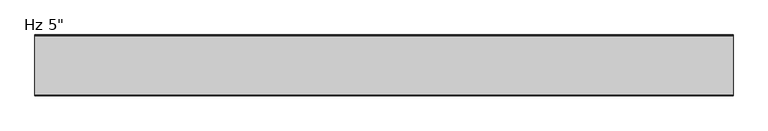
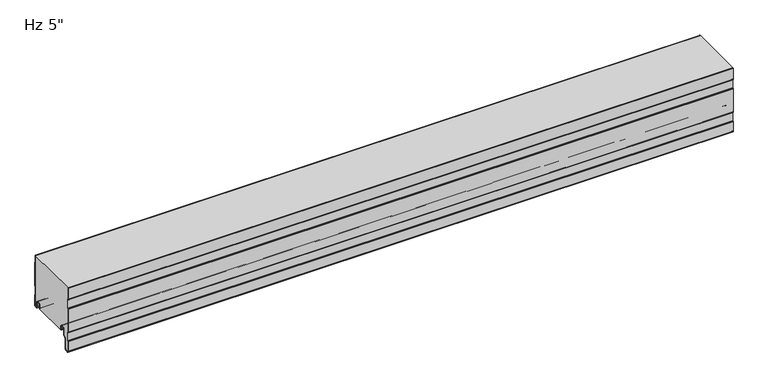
"""IFC4 building model written with IfcOpenShell, lengths in millimetres: plate geometry."""

import ifcopenshell
import ifcopenshell.guid

model = None  # the IFC model being written
_history = None  # IfcOwnerHistory: only IFC2X3 demands one
_inside = {}  # id of a spatial element -> (the spatial element, [elements in it])
_under = {}  # id of a project, library or spatial element -> (it, [spatial elements below it])
_declared = {}  # id of a project -> (the project, [libraries it declares])
_typed = {}  # id of a type object -> (the type object, [elements of that type])
_made_of = {}  # id of a material, layer set ... -> (it, [elements and type objects made of it])


def new_model(schema):
    """Start an empty IFC model of exactly this schema.

    Asked for "IFC4X3", IfcOpenShell would pick the latest addendum, in which some entities
    have other attributes; the version numbers below select the first issue.
    IFC2X3 requires an IfcOwnerHistory on every rooted entity: one is made here for all.
    """
    global model, _history
    if schema == "IFC4X3":
        model = ifcopenshell.file(schema_version=(4, 3, 0, 0))
    else:
        model = ifcopenshell.file(schema=schema)
    _inside.clear()
    _under.clear()
    _declared.clear()
    _typed.clear()
    _made_of.clear()
    _history = None
    if model.schema == "IFC2X3":
        org = make("IfcOrganization", Name="unknown")
        user = make(
            "IfcPersonAndOrganization",
            ThePerson=make("IfcPerson", FamilyName="unknown"),
            TheOrganization=org,
        )
        app = make(
            "IfcApplication",
            ApplicationDeveloper=org,
            Version="unknown",
            ApplicationFullName="unknown",
            ApplicationIdentifier="unknown",
        )
        _history = make(
            "IfcOwnerHistory",
            OwningUser=user,
            OwningApplication=app,
            ChangeAction="ADDED",
            CreationDate=0,
        )
    return model


def make(cls, **values):
    """One entity of the class cls with the attributes given. An attribute that is None is left unset."""
    return model.create_entity(
        cls, **{name: value for name, value in values.items() if value is not None}
    )


def rooted(cls, **values):
    """An entity with a GlobalId (a new one), such as an element, a storey or a relation."""
    return make(cls, GlobalId=ifcopenshell.guid.new(), OwnerHistory=_history, **values)


def si_unit(unit_type, name, prefix=None):
    """IfcSIUnit, for example si_unit("LENGTHUNIT", "METRE", prefix="MILLI")."""
    return make("IfcSIUnit", UnitType=unit_type, Prefix=prefix, Name=name)


def assignment(units):
    """IfcUnitAssignment: the units of a project."""
    return None if units is None else make("IfcUnitAssignment", Units=units)


def point(xyz):
    """IfcCartesianPoint."""
    return None if xyz is None else make("IfcCartesianPoint", Coordinates=xyz)


def direction(xyz):
    """IfcDirection."""
    return None if xyz is None else make("IfcDirection", DirectionRatios=xyz)


def frame(location, z_axis=None, x_axis=None):
    """IfcAxis2Placement3D, a coordinate frame: its origin and axes. An axis left out is left unset."""
    return make(
        "IfcAxis2Placement3D",
        Location=point(location),
        Axis=direction(z_axis),
        RefDirection=direction(x_axis),
    )


def frame_2d(location, x_axis=None):
    """IfcAxis2Placement2D, a coordinate frame in the plane: its origin and x axis."""
    return make(
        "IfcAxis2Placement2D", Location=point(location), RefDirection=direction(x_axis)
    )


def origin():
    """The frame at (0, 0, 0) with its axes left unset."""
    return frame((0.0, 0.0, 0.0))


def place(relative_to, where):
    """IfcLocalPlacement: puts the frame where relative to a parent placement (None: the world)."""
    return make(
        "IfcLocalPlacement", PlacementRelTo=relative_to, RelativePlacement=where
    )


def context(
    kind, dimensions, precision=None, world=None, true_north=None, identifier=None
):
    """IfcGeometricRepresentationContext, for example the 3D "Model" context."""
    return make(
        "IfcGeometricRepresentationContext",
        ContextIdentifier=identifier,
        ContextType=kind,
        CoordinateSpaceDimension=dimensions,
        Precision=precision,
        WorldCoordinateSystem=world,
        TrueNorth=true_north,
    )


def project(units=None, contexts=None):
    """IfcProject with its units and contexts."""
    return rooted(
        "IfcProject",
        Name="project",
        RepresentationContexts=contexts,
        UnitsInContext=assignment(units),
    )


def spatial(cls, under=None, at=None, **own):
    """A site, building, storey or space (cls), placed at a placement, below another one or the project."""
    s = rooted(cls, ObjectPlacement=at, **own)
    if under is not None:
        _under.setdefault(under.id(), (under, []))[1].append(s)
    return s


def polyline(points):
    """IfcPolyline through the points."""
    return make("IfcPolyline", Points=[point(p) for p in points])


def circle_curve(where, radius):
    """IfcCircle in the frame where."""
    return make("IfcCircle", Position=where, Radius=radius)


def trimmed(basis, trim1, trim2, sense, master):
    """IfcTrimmedCurve: the piece of a basis curve between two trims."""
    return make(
        "IfcTrimmedCurve",
        BasisCurve=basis,
        Trim1=trim1,
        Trim2=trim2,
        SenseAgreement=sense,
        MasterRepresentation=master,
    )


def segment(curve, same_sense, transition):
    """IfcCompositeCurveSegment."""
    return make(
        "IfcCompositeCurveSegment",
        Transition=transition,
        SameSense=same_sense,
        ParentCurve=curve,
    )


def composite_curve(segments, self_intersect=None):
    """IfcCompositeCurve: segments joined end to end."""
    return make("IfcCompositeCurve", Segments=segments, SelfIntersect=self_intersect)


def outline(outer, holes=None, kind="AREA"):
    """IfcArbitraryClosedProfileDef: a profile drawn as a closed curve; with holes, ...WithVoids."""
    if holes is None:
        return make("IfcArbitraryClosedProfileDef", ProfileType=kind, OuterCurve=outer)
    return make(
        "IfcArbitraryProfileDefWithVoids",
        ProfileType=kind,
        OuterCurve=outer,
        InnerCurves=holes,
    )


def extrude(swept, where, along, depth):
    """IfcExtrudedAreaSolid: the profile swept, set in the frame where, extruded along a direction by depth."""
    return make(
        "IfcExtrudedAreaSolid",
        SweptArea=swept,
        Position=where,
        ExtrudedDirection=direction(along),
        Depth=depth,
    )


def shape(context_of_items, identifier, shape_type, items):
    """IfcShapeRepresentation: the items that make up one representation, for example the "Body"."""
    return make(
        "IfcShapeRepresentation",
        ContextOfItems=context_of_items,
        RepresentationIdentifier=identifier,
        RepresentationType=shape_type,
        Items=items,
    )


def source(mapping_origin, context_of_items, identifier, shape_type, items):
    """IfcRepresentationMap: a shape defined once, which mapped items show again and again."""
    return make(
        "IfcRepresentationMap",
        MappingOrigin=mapping_origin,
        MappedRepresentation=shape(context_of_items, identifier, shape_type, items),
    )


def transform(
    local_origin,
    x_axis=None,
    y_axis=None,
    z_axis=None,
    scale=None,
    scale2=None,
    scale3=None,
    uniform=True,
):
    """IfcCartesianTransformationOperator3D, or its non-uniform kind. x_axis, y_axis, z_axis: its Axis1, 2, 3."""
    if uniform:
        return make(
            "IfcCartesianTransformationOperator3D",
            Axis1=direction(x_axis),
            Axis2=direction(y_axis),
            LocalOrigin=point(local_origin),
            Scale=scale,
            Axis3=direction(z_axis),
        )
    return make(
        "IfcCartesianTransformationOperator3DnonUniform",
        Axis1=direction(x_axis),
        Axis2=direction(y_axis),
        LocalOrigin=point(local_origin),
        Scale=scale,
        Axis3=direction(z_axis),
        Scale2=scale2,
        Scale3=scale3,
    )


def mapped(mapping_source, mapping_target):
    """IfcMappedItem: shows the shape of a source again, moved by a transform."""
    return make(
        "IfcMappedItem", MappingSource=mapping_source, MappingTarget=mapping_target
    )


def made_of(thing, what):
    """Note that an element or type object is made of a material, layer set ...; save() writes the relation."""
    if what is not None:
        _made_of.setdefault(what.id(), (what, []))[1].append(thing)
    return thing


def element(
    cls,
    number,
    at=None,
    inside=None,
    cuts=None,
    type_object=None,
    material=None,
    context=None,
    identifier="Body",
    shape_type=None,
    held_by="IfcProductDefinitionShape",
    body=None,
    shapes=None,
    **own,
):
    """One element of the class cls, such as IfcWall. Its Tag is "e" and its number.

    at: its placement. inside: the storey or other place that contains it. cuts: it is an
    opening in that element (IfcRelVoidsElement). A single representation is given by context,
    identifier, shape_type and body (its items); several are given by shapes. held_by: the class
    of the entity that holds the representations. save() writes the other relations.
    """
    e = rooted(cls, Tag="e%d" % number, ObjectPlacement=at, **own)
    if body is not None:
        shapes = [shape(context, identifier, shape_type, body)]
    if shapes is not None:
        e.Representation = make(held_by, Representations=shapes)
    if inside is not None:
        _inside.setdefault(inside.id(), (inside, []))[1].append(e)
    if cuts is not None:
        rooted(
            "IfcRelVoidsElement", RelatingBuildingElement=cuts, RelatedOpeningElement=e
        )
    if type_object is not None:
        _typed.setdefault(type_object.id(), (type_object, []))[1].append(e)
    return made_of(e, material)


def aggregate(whole, parts):
    """IfcRelAggregates: a whole, such as a stair, and the parts it consists of."""
    return rooted("IfcRelAggregates", RelatingObject=whole, RelatedObjects=parts)


def save(model, path):
    """Write the relations noted so far, then the file.

    IfcRelAggregates (storeys below a building ...), IfcRelContainedInSpatialStructure (elements
    in a storey), IfcRelDefinesByType, IfcRelAssociatesMaterial and IfcRelDeclares: one each for
    every whole, place, type object, material and project.
    """
    for whole, parts in _under.values():
        aggregate(whole, parts)
    for where, things in _inside.values():
        rooted(
            "IfcRelContainedInSpatialStructure",
            RelatedElements=things,
            RelatingStructure=where,
        )
    for kind, things in _typed.values():
        rooted("IfcRelDefinesByType", RelatedObjects=things, RelatingType=kind)
    for what, things in _made_of.values():
        rooted("IfcRelAssociatesMaterial", RelatedObjects=things, RelatingMaterial=what)
    for by, libraries in _declared.values():
        rooted("IfcRelDeclares", RelatingContext=by, RelatedDefinitions=libraries)
    model.write(path)


def plane_surface(at):
    """IfcPlane: the flat surface through the origin of the frame at, square to its z axis."""
    return make("IfcPlane", Position=at)


def cylinder_surface(at, radius):
    """IfcCylindricalSurface: all points at the distance radius from the z axis of the frame at."""
    return make("IfcCylindricalSurface", Position=at, Radius=radius)


def revolved_surface(curve, axis_point, axis_direction):
    """IfcSurfaceOfRevolution: the curve turned about the line through axis_point along axis_direction."""
    return make(
        "IfcSurfaceOfRevolution",
        SweptCurve=make("IfcArbitraryOpenProfileDef", ProfileType="CURVE", Curve=curve),
        AxisPosition=make("IfcAxis1Placement", Location=point(axis_point), Axis=direction(axis_direction)),
    )


def advanced_brep(points, edges, surfaces, faces):
    """IfcAdvancedBrep: a solid bounded by faces that lie on surfaces and meet in shared edges.

    An edge is (start, end): straight between two places in points (the first is 0);
    or (start, end, curve); or (start, end, curve, False) where it runs against its curve.
    A face is (place in surfaces, loops), or (place, loops, False) where it looks against
    its surface's normal. A loop lists edges by number (the first is 1), with a minus sign
    where the edge is run from its end to its start. The first loop is the outer one.
    """
    corners = [point(p) for p in points]
    vertices = [make("IfcVertexPoint", VertexGeometry=c) for c in corners]
    made = []
    for start, end, *more in edges:
        made.append(
            make(
                "IfcEdgeCurve",
                EdgeStart=vertices[start],
                EdgeEnd=vertices[end],
                EdgeGeometry=more[0] if more else make("IfcPolyline", Points=[corners[start], corners[end]]),
                SameSense=more[1] if len(more) > 1 else True,
            )
        )
    hull = []
    for where, loops, *sense in faces:
        bounds = []
        for j, loop in enumerate(loops):
            ring = [make("IfcOrientedEdge", EdgeElement=made[abs(k) - 1], Orientation=k > 0) for k in loop]
            bounds.append(
                make(
                    "IfcFaceOuterBound" if j == 0 else "IfcFaceBound",
                    Bound=make("IfcEdgeLoop", EdgeList=ring),
                    Orientation=True,
                )
            )
        hull.append(make("IfcAdvancedFace", Bounds=bounds, FaceSurface=surfaces[where], SameSense=sense[0] if sense else True))
    return make("IfcAdvancedBrep", Outer=make("IfcClosedShell", CfsFaces=hull))


def plate_73ffa5bb(model_context):
    return source(origin(), model_context, "Body", "SolidModel", [
        advanced_brep(
        [(-730.0, -17.0015159, 2.0313088), (-730.0, -18.0015191, 1.0313116), (-730.0, -19.0015105, 2.0313088), (-730.0, -19.0015105, 6.0315125), (-730.0, -18.0015159, 6.0315125), (-730.0, -18.0015159, 8.7237223), (-730.0, -14.7015202, 12.023718), (-730.0, -10.301529, 12.023718), (-730.0, -7.0015335, 8.7237225), (-730.0, -7.0015335, -1.6962564), (-730.0, -5.2315393, -3.4662506), (-730.0, -0.9999916, -3.4662506), (-730.0, -0.9999916, 21.034026), (-730.0, -2.2002307, 22.4196686), (-730.0, -2.2002307, 41.7948349), (-730.0, -1.0, 43.1804679), (-730.0, -1.0, 97.2338833), (-730.0, -2.2002307, 98.6195162), (-730.0, -2.2002307, 114.0), (-730.0, -1.2002307, 114.0), (-730.0, -1.2002307, 98.9923967), (-730.0, -0.3417885, 98.001349), (-730.0, 0.0, 97.0847321), (-730.0, 0.0, 43.329619), (-730.0, -0.3417885, 42.4130021), (-730.0, -1.2002307, 41.4219545), (-730.0, -1.2002307, 22.7925491), (-730.0, -0.3417885, 21.8015014), (-730.0, 0.0, 20.8847931), (-730.0, 8.4e-06, -3.0662545), (-730.0, -1.3999878, -4.4662506), (-730.0, -5.2315393, -4.4662506), (-730.0, -8.0015335, -1.6962564), (-730.0, -8.0015335, 8.7237225), (-730.0, -10.301529, 11.023718), (-730.0, -14.7015202, 11.023718), (-730.0, -17.0015159, 8.7237223), (730.0, -17.0015159, 2.0313088), (730.0, -17.0015159, 8.7237223), (730.0, -14.7015202, 11.023718), (730.0, -10.301529, 11.023718), (730.0, -8.0015335, 8.7237225), (730.0, -8.0015335, -1.6962564), (730.0, -5.2315393, -4.4662506), (730.0, -1.3999878, -4.4662506), (730.0, 8.4e-06, -3.0662545), (730.0, 8.4e-06, 20.8848845), (730.0, -0.3417885, 21.8015014), (730.0, -1.2002307, 22.7925491), (730.0, -1.2002307, 41.4219545), (730.0, -0.3417885, 42.4130021), (730.0, 0.0, 43.329619), (730.0, 0.0, 97.0847321), (730.0, -0.3417885, 98.001349), (730.0, -1.2002307, 98.9923967), (730.0, -1.2002307, 114.0), (730.0, -2.2002307, 114.0), (730.0, -2.2002307, 98.6195162), (730.0, -1.0, 97.2338833), (730.0, -1.0, 43.1804679), (730.0, -2.2002307, 41.7948349), (730.0, -2.2002307, 22.4196686), (730.0, -0.9999916, 21.034026), (730.0, -0.9999916, -3.4662506), (730.0, -5.2315393, -3.4662506), (730.0, -7.0015335, -1.6962564), (730.0, -7.0015335, 8.7237225), (730.0, -10.301529, 12.023718), (730.0, -14.7015202, 12.023718), (730.0, -18.0015159, 8.7237223), (730.0, -18.0015159, 6.0315125), (730.0, -19.0015105, 6.0315125), (730.0, -19.0015105, 2.0313088), (730.0, -18.0015192, 1.0313116)],
        [
            (0, 1, circle_curve(frame((-730.0, -18.0015132, 2.0313088), z_axis=(-1.0, 0.0, 0.0), x_axis=(0.0, 0.0, 1.0)), 0.9999973)),
            (1, 2, circle_curve(frame((-730.0, -18.0015133, 2.0313088), z_axis=(-1.0, 0.0, 0.0), x_axis=(0.0, 0.0, 1.0)), 0.9999972)),
            (2, 3),
            (3, 4),
            (4, 5),
            (5, 6, circle_curve(frame((-730.0, -14.7015202, 8.7237223), z_axis=(-1.0, 0.0, 0.0), x_axis=(0.0, 0.0, 1.0)), 3.2999957)),
            (6, 7),
            (7, 8, circle_curve(frame((-730.0, -10.301529, 8.7237225), z_axis=(-1.0, 0.0, 0.0), x_axis=(0.0, 0.0, 1.0)), 3.2999955)),
            (8, 9),
            (9, 10, circle_curve(frame((-730.0, -5.2315393, -1.6962564), z_axis=(1.0, 0.0, 0.0), x_axis=(0.0, 0.0, 1.0)), 1.7699942)),
            (10, 11),
            (11, 12),
            (12, 13),
            (13, 14),
            (14, 15),
            (15, 16),
            (16, 17),
            (17, 18),
            (18, 19),
            (19, 20),
            (20, 21),
            (21, 22, circle_curve(frame((-730.0, -1.3999972, 97.0847321), z_axis=(-1.0, 0.0, 0.0), x_axis=(0.0, 0.0, 1.0)), 1.3999972)),
            (22, 23),
            (23, 24, circle_curve(frame((-730.0, -1.3999972, 43.329619), z_axis=(-1.0, 0.0, 0.0), x_axis=(0.0, 0.0, 1.0)), 1.3999972)),
            (24, 25),
            (25, 26),
            (26, 27),
            (27, 28, circle_curve(frame((-730.0, -1.3999972, 20.8848845), z_axis=(-1.0, 0.0, 0.0), x_axis=(0.0, 0.0, 1.0)), 1.3999972)),
            (28, 29),
            (29, 30, circle_curve(frame((-730.0, -1.3999878, -3.0662545), z_axis=(-1.0, 0.0, 0.0), x_axis=(0.0, 0.0, 1.0)), 1.3999962)),
            (30, 31),
            (31, 32, circle_curve(frame((-730.0, -5.2315393, -1.6962564), z_axis=(-1.0, 0.0, 0.0), x_axis=(0.0, 0.0, 1.0)), 2.7699942)),
            (32, 33),
            (33, 34, circle_curve(frame((-730.0, -10.301529, 8.7237225), z_axis=(1.0, 0.0, 0.0), x_axis=(0.0, 0.0, 1.0)), 2.2999955)),
            (34, 35),
            (35, 36, circle_curve(frame((-730.0, -14.7015202, 8.7237223), z_axis=(1.0, 0.0, 0.0), x_axis=(0.0, 0.0, 1.0)), 2.2999957)),
            (36, 0),
            (37, 38),
            (38, 39, circle_curve(frame((730.0, -14.7015202, 8.7237223), z_axis=(-1.0, 0.0, 0.0), x_axis=(0.0, 0.0, 1.0)), 2.2999957)),
            (39, 40),
            (40, 41, circle_curve(frame((730.0, -10.301529, 8.7237225), z_axis=(-1.0, 0.0, 0.0), x_axis=(0.0, 0.0, 1.0)), 2.2999955)),
            (41, 42),
            (42, 43, circle_curve(frame((730.0, -5.2315393, -1.6962564), z_axis=(1.0, 0.0, 0.0), x_axis=(0.0, 0.0, 1.0)), 2.7699942)),
            (43, 44),
            (44, 45, circle_curve(frame((730.0, -1.3999878, -3.0662545), z_axis=(1.0, 0.0, 0.0), x_axis=(0.0, 0.0, 1.0)), 1.3999962)),
            (45, 46),
            (46, 47, circle_curve(frame((730.0, -1.3999972, 20.8848845), z_axis=(1.0, 0.0, 0.0), x_axis=(0.0, 0.0, 1.0)), 1.3999972)),
            (47, 48),
            (48, 49),
            (49, 50),
            (50, 51, circle_curve(frame((730.0, -1.3999972, 43.329619), z_axis=(1.0, 0.0, 0.0), x_axis=(0.0, 0.0, 1.0)), 1.3999972)),
            (51, 52),
            (52, 53, circle_curve(frame((730.0, -1.3999972, 97.0847321), z_axis=(1.0, 0.0, 0.0), x_axis=(0.0, 0.0, 1.0)), 1.3999972)),
            (53, 54),
            (54, 55),
            (55, 56),
            (56, 57),
            (57, 58),
            (58, 59),
            (59, 60),
            (60, 61),
            (61, 62),
            (62, 63),
            (63, 64),
            (64, 65, circle_curve(frame((730.0, -5.2315393, -1.6962564), z_axis=(-1.0, 0.0, 0.0), x_axis=(0.0, 0.0, 1.0)), 1.7699942)),
            (65, 66),
            (66, 67, circle_curve(frame((730.0, -10.301529, 8.7237225), z_axis=(1.0, 0.0, 0.0), x_axis=(0.0, 0.0, 1.0)), 3.2999955)),
            (67, 68),
            (68, 69, circle_curve(frame((730.0, -14.7015202, 8.7237223), z_axis=(1.0, 0.0, 0.0), x_axis=(0.0, 0.0, 1.0)), 3.2999957)),
            (69, 70),
            (70, 71),
            (71, 72),
            (72, 73, circle_curve(frame((730.0, -18.0015133, 2.0313088), z_axis=(1.0, 0.0, 0.0), x_axis=(0.0, 0.0, 1.0)), 0.9999972)),
            (73, 37, circle_curve(frame((730.0, -18.0015132, 2.0313088), z_axis=(1.0, 0.0, 0.0), x_axis=(0.0, 0.0, 1.0)), 0.9999973)),
            (18, 56),
            (55, 19),
            (36, 38),
            (37, 0),
            (35, 39),
            (34, 40),
            (33, 41),
            (32, 42),
            (31, 43),
            (30, 44),
            (29, 45),
            (28, 46),
            (27, 47),
            (26, 48),
            (25, 49),
            (24, 50),
            (23, 51),
            (22, 52),
            (21, 53),
            (20, 54),
            (17, 57),
            (16, 58),
            (15, 59),
            (14, 60),
            (13, 61),
            (12, 62),
            (11, 63),
            (10, 64),
            (9, 65),
            (8, 66),
            (7, 67),
            (6, 68),
            (5, 69),
            (4, 70),
            (3, 71),
            (2, 72),
            (1, 73),
        ],
        [
            plane_surface(frame((-730.0, 0.0, 381.0), z_axis=(-1.0, 0.0, 0.0), x_axis=(0.0, 1.0, 0.0))),
            plane_surface(frame((730.0, 0.0, 381.0), z_axis=(1.0, 0.0, 0.0), x_axis=(0.0, 1.0, 0.0))),
            plane_surface(frame((730.0, 10.0, 114.0), z_axis=(0.0, 0.0, 1.0), x_axis=(-1.0, 0.0, 0.0))),
            plane_surface(frame((-730.0, -17.0015159, 2.0313088), z_axis=(0.0, 1.0, 0.0), x_axis=(1.0, 0.0, 0.0))),
            revolved_surface(polyline([(730.0, -14.7015202, 11.023718), (-730.0, -14.7015202, 11.023718)]), (-730.0, -14.7015202, 8.7237223), (1.0, 0.0, 0.0)),
            plane_surface(frame((-730.0, -14.7015202, 11.023718), z_axis=(0.0, 0.0, -1.0), x_axis=(1.0, 0.0, 0.0))),
            revolved_surface(polyline([(730.0, -10.301529, 11.023717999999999), (-730.0, -10.301529, 11.023717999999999)]), (-730.0, -10.301529, 8.7237225), (1.0, 0.0, 0.0)),
            plane_surface(frame((-730.0, -8.0015335, 8.7237225), z_axis=(0.0, -1.0, 0.0), x_axis=(1.0, 0.0, 0.0))),
            cylinder_surface(frame((-730.0, -5.2315393, -1.6962564), z_axis=(-1.0, 0.0, 0.0), x_axis=(0.0, 0.0, 1.0)), 2.7699942),
            plane_surface(frame((-730.0, -5.2315393, -4.4662506), z_axis=(0.0, 0.0, -1.0), x_axis=(1.0, 0.0, 0.0))),
            cylinder_surface(frame((-730.0, -1.3999878, -3.0662545), z_axis=(-1.0, 0.0, 0.0), x_axis=(0.0, 0.0, 1.0)), 1.3999962),
            plane_surface(frame((-730.0, 8.4e-06, -3.0662545), z_axis=(0.0, 1.0, 0.0), x_axis=(1.0, 0.0, 0.0))),
            cylinder_surface(frame((-730.0, -1.3999972, 20.8848845), z_axis=(-1.0, 0.0, 0.0), x_axis=(0.0, 0.0, 1.0)), 1.3999972),
            plane_surface(frame((-730.0, -0.3417885, 21.8015014), z_axis=(0.0, 0.755864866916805, 0.6547276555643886), x_axis=(1.0, 0.0, 0.0))),
            plane_surface(frame((-730.0, -1.2002307, 32.1072518), z_axis=(0.0, 1.0, 0.0), x_axis=(1.0, 0.0, 0.0))),
            plane_surface(frame((-730.0, -1.2002307, 41.4219545), z_axis=(0.0, 0.755864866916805, -0.6547276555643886), x_axis=(1.0, 0.0, 0.0))),
            cylinder_surface(frame((-730.0, -1.3999972, 43.329619), z_axis=(-1.0, 0.0, 0.0), x_axis=(0.0, 0.0, 1.0)), 1.3999972),
            plane_surface(frame((-730.0, 0.0, 43.329619), z_axis=(0.0, 1.0, 0.0), x_axis=(1.0, 0.0, 0.0))),
            cylinder_surface(frame((-730.0, -1.3999972, 97.0847321), z_axis=(-1.0, 0.0, 0.0), x_axis=(0.0, 0.0, 1.0)), 1.3999972),
            plane_surface(frame((-730.0, -0.3417885, 98.001349), z_axis=(0.0, 0.755864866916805, 0.6547276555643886), x_axis=(1.0, 0.0, 0.0))),
            plane_surface(frame((-730.0, -1.2002307, 108.3070994), z_axis=(0.0, 1.0, 0.0), x_axis=(1.0, 0.0, 0.0))),
            plane_surface(frame((-730.0, -2.2002307, 117.9946825), z_axis=(0.0, -1.0, 0.0), x_axis=(1.0, 0.0, 0.0))),
            plane_surface(frame((-730.0, -2.2002307, 98.6195162), z_axis=(0.0, -0.755864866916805, -0.6547276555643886), x_axis=(1.0, 0.0, 0.0))),
            plane_surface(frame((-730.0, -1.0, 97.2338833), z_axis=(0.0, -1.0, 0.0), x_axis=(1.0, 0.0, 0.0))),
            plane_surface(frame((-730.0, -1.0, 43.1804679), z_axis=(0.0, -0.755864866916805, 0.6547276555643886), x_axis=(1.0, 0.0, 0.0))),
            plane_surface(frame((-730.0, -2.2002307, 41.7948349), z_axis=(0.0, -1.0, 0.0), x_axis=(1.0, 0.0, 0.0))),
            plane_surface(frame((-730.0, -2.2002307, 22.4196686), z_axis=(0.0, -0.755864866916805, -0.6547276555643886), x_axis=(1.0, 0.0, 0.0))),
            plane_surface(frame((-730.0, -0.9999916, 21.034026), z_axis=(0.0, -1.0, 0.0), x_axis=(1.0, 0.0, 0.0))),
            plane_surface(frame((-730.0, -0.9999916, -3.4662506), z_axis=(0.0, 0.0, 1.0), x_axis=(1.0, 0.0, 0.0))),
            revolved_surface(polyline([(730.0, -5.2315393, 0.07373779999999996), (-730.0, -5.2315393, 0.07373779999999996)]), (-730.0, -5.2315393, -1.6962564), (1.0, 0.0, 0.0)),
            plane_surface(frame((-730.0, -7.0015335, -1.6962564), z_axis=(0.0, 1.0, 0.0), x_axis=(1.0, 0.0, 0.0))),
            cylinder_surface(frame((-730.0, -10.301529, 8.7237225), z_axis=(-1.0, 0.0, 0.0), x_axis=(0.0, 0.0, 1.0)), 3.2999955),
            plane_surface(frame((-730.0, -10.301529, 12.023718), z_axis=(0.0, 0.0, 1.0), x_axis=(1.0, 0.0, 0.0))),
            cylinder_surface(frame((-730.0, -14.7015202, 8.7237223), z_axis=(-1.0, 0.0, 0.0), x_axis=(0.0, 0.0, 1.0)), 3.2999957),
            plane_surface(frame((-730.0, -18.0015159, 8.7237223), z_axis=(0.0, -1.0, 0.0), x_axis=(1.0, 0.0, 0.0))),
            plane_surface(frame((-730.0, -18.0015159, 6.0315125), z_axis=(0.0, 0.0, 1.0), x_axis=(1.0, 0.0, 0.0))),
            plane_surface(frame((-730.0, -19.0015105, 6.0315125), z_axis=(0.0, -1.0, 0.0), x_axis=(1.0, 0.0, 0.0))),
            cylinder_surface(frame((-730.0, -18.0015133, 2.0313088), z_axis=(-1.0, 0.0, 0.0), x_axis=(0.0, 0.0, 1.0)), 0.9999972),
            cylinder_surface(frame((-730.0, -18.0015132, 2.0313088), z_axis=(-1.0, 0.0, 0.0), x_axis=(0.0, 0.0, 1.0)), 0.9999973),
        ],
        [
            (0, [[1, 2, 3, 4, 5, 6, 7, 8, 9, 10, 11, 12, 13, 14, 15, 16, 17, 18, 19, 20, 21, 22, 23, 24, 25, 26, 27, 28, 29, 30, 31, 32, 33, 34, 35, 36, 37]]),
            (1, [[38, 39, 40, 41, 42, 43, 44, 45, 46, 47, 48, 49, 50, 51, 52, 53, 54, 55, 56, 57, 58, 59, 60, 61, 62, 63, 64, 65, 66, 67, 68, 69, 70, 71, 72, 73, 74]]),
            (2, [[75, -56, 76, -19]]),
            (3, [[77, -38, 78, -37]]),
            (4, [[79, -39, -77, -36]]),
            (5, [[80, -40, -79, -35]]),
            (6, [[81, -41, -80, -34]]),
            (7, [[82, -42, -81, -33]]),
            (8, [[83, -43, -82, -32]]),
            (9, [[84, -44, -83, -31]]),
            (10, [[85, -45, -84, -30]]),
            (11, [[86, -46, -85, -29]]),
            (12, [[87, -47, -86, -28]]),
            (13, [[88, -48, -87, -27]]),
            (14, [[89, -49, -88, -26]]),
            (15, [[90, -50, -89, -25]]),
            (16, [[91, -51, -90, -24]]),
            (17, [[92, -52, -91, -23]]),
            (18, [[93, -53, -92, -22]]),
            (19, [[94, -54, -93, -21]]),
            (20, [[-20, -76, -55, -94]]),
            (21, [[-57, -75, -18, 95]]),
            (22, [[96, -58, -95, -17]]),
            (23, [[97, -59, -96, -16]]),
            (24, [[98, -60, -97, -15]]),
            (25, [[99, -61, -98, -14]]),
            (26, [[100, -62, -99, -13]]),
            (27, [[101, -63, -100, -12]]),
            (28, [[102, -64, -101, -11]]),
            (29, [[103, -65, -102, -10]]),
            (30, [[104, -66, -103, -9]]),
            (31, [[105, -67, -104, -8]]),
            (32, [[106, -68, -105, -7]]),
            (33, [[107, -69, -106, -6]]),
            (34, [[108, -70, -107, -5]]),
            (35, [[109, -71, -108, -4]]),
            (36, [[110, -72, -109, -3]]),
            (37, [[111, -73, -110, -2]]),
            (38, [[-78, -74, -111, -1]]),
        ],
    ),
        extrude(outline(composite_curve([segment(trimmed(circle_curve(frame_2d((-125.5998717, -10.6415934)), 1.3998661), [point((-126.9997378, -10.6415934))], [point((-126.5324955, -9.5976403))], False, "CARTESIAN"), True, "CONTINUOUS"), segment(polyline([(-126.5324955, -9.5976403), (-125.7997693, -8.8649141), (-125.7997693, 10.0260713), (-126.5327349, 10.7590369)]), True, "CONTINUOUS"), segment(trimmed(circle_curve(frame_2d((-125.6000237, 11.8030877)), 1.3999972), [point((-126.5327349, 10.7590369))], [point((-127.0, 11.810741))], False, "CARTESIAN"), True, "CONTINUOUS"), segment(polyline([(-127.0, 11.810741), (-127.0, 65.5582542)]), True, "CONTINUOUS"), segment(trimmed(circle_curve(frame_2d((-125.6000028, 65.5582542)), 1.3999972), [point((-127.0, 65.5582542))], [point((-126.532714, 66.602305))], False, "CARTESIAN"), True, "CONTINUOUS"), segment(polyline([(-126.532714, 66.602305), (-125.7997693, 67.3352497), (-125.7997693, 86.2259189), (-126.5327349, 86.9588845)]), True, "CONTINUOUS"), segment(trimmed(circle_curve(frame_2d((-125.6000237, 88.0029353)), 1.3999972), [point((-126.5327349, 86.9588845))], [point((-127.0, 88.0105886))], False, "CARTESIAN"), True, "CONTINUOUS"), segment(polyline([(-127.0, 88.0105886), (-127.0, 114.0), (-126.0, 114.0), (-126.0, 87.8405213), (-124.7997693, 86.6402905), (-124.7997693, 66.920878), (-126.0, 65.7206473), (-126.0, 11.6405156), (-124.7997693, 10.4402849), (-124.7997693, -9.2791277), (-125.9997378, -10.4790962), (-125.9997378, -32.4521176)]), True, "CONTINUOUS"), segment(trimmed(circle_curve(frame_2d((-123.4294985, -32.4521176)), 2.5702393), [point((-125.9997378, -32.4521176))], [point((-123.2054129, -35.0125699))], True, "CARTESIAN"), True, "CONTINUOUS"), segment(polyline([(-123.2054129, -35.0125699), (-118.223592, -34.5765709)]), True, "CONTINUOUS"), segment(trimmed(circle_curve(frame_2d((-118.7049826, -31.9198392)), 2.6999926), [point((-118.223592, -34.5765709))], [point((-116.00499, -31.9198392))], True, "CARTESIAN"), True, "CONTINUOUS"), segment(polyline([(-116.00499, -31.9198392), (-116.00499, -9.8247096), (-110.5029189, -4.3226385)]), True, "CONTINUOUS"), segment(trimmed(circle_curve(frame_2d((-111.7049966, -3.1205608)), 1.6999946), [point((-110.5029189, -4.3226385))], [point((-110.005002, -3.1205608))], True, "CARTESIAN"), True, "CONTINUOUS"), segment(polyline([(-110.005002, -3.1205608), (-110.005002, 8.6903283)]), True, "CONTINUOUS"), segment(trimmed(circle_curve(frame_2d((-106.6550067, 8.6903283)), 3.3499953), [point((-110.005002, 8.6903283))], [point((-106.6550067, 12.0403236))], False, "CARTESIAN"), True, "CONTINUOUS"), segment(polyline([(-106.6550067, 12.0403236), (-102.2550155, 12.0403236)]), True, "CONTINUOUS"), segment(trimmed(circle_curve(frame_2d((-102.2550155, 8.6903283)), 3.3499953), [point((-102.2550155, 12.0403236))], [point((-98.9050202, 8.6903283))], False, "CARTESIAN"), True, "CONTINUOUS"), segment(polyline([(-98.9050202, 8.6903283), (-98.9050202, 5.9912173), (-97.5065413, 5.9912173), (-97.5065413, 2.2328239)]), True, "CONTINUOUS"), segment(trimmed(circle_curve(frame_2d((-98.706538, 2.2313092)), 1.1999976), [point((-97.5065413, 2.2328239))], [point((-98.6760161, 1.0316999))], False, "CARTESIAN"), True, "CONTINUOUS"), segment(trimmed(circle_curve(frame_2d((-98.706538, 2.2313092)), 1.1999976), [point((-98.6760161, 1.0316999))], [point((-99.9050202, 2.1710221))], False, "CARTESIAN"), True, "CONTINUOUS"), segment(polyline([(-99.9050202, 2.1710221), (-99.9050202, 8.6903283)]), True, "CONTINUOUS"), segment(trimmed(circle_curve(frame_2d((-102.2550155, 8.6903283)), 2.3499953), [point((-99.9050202, 8.6903283))], [point((-102.2550155, 11.0403236))], True, "CARTESIAN"), True, "CONTINUOUS"), segment(polyline([(-102.2550155, 11.0403236), (-106.6550067, 11.0403236)]), True, "CONTINUOUS"), segment(trimmed(circle_curve(frame_2d((-106.6550067, 8.6903283)), 2.3499953), [point((-106.6550067, 11.0403236))], [point((-109.005002, 8.6903283))], True, "CARTESIAN"), True, "CONTINUOUS"), segment(polyline([(-109.005002, 8.6903283), (-109.005002, -3.1205608)]), True, "CONTINUOUS"), segment(trimmed(circle_curve(frame_2d((-111.7049966, -3.1205608)), 2.6999946), [point((-109.005002, -3.1205608))], [point((-109.7958121, -5.0297453))], False, "CARTESIAN"), True, "CONTINUOUS"), segment(polyline([(-109.7958121, -5.0297453), (-114.6242296, -9.8581627)]), True, "CONTINUOUS"), segment(trimmed(circle_curve(frame_2d((-113.7049926, -10.7773997)), 1.2999974), [point((-114.6242296, -9.8581627))], [point((-115.00499, -10.7773997))], True, "CARTESIAN"), True, "CONTINUOUS"), segment(polyline([(-115.00499, -10.7773997), (-115.00499, -31.9198392)]), True, "CONTINUOUS"), segment(trimmed(circle_curve(frame_2d((-118.7049826, -31.9198392)), 3.6999926), [point((-115.00499, -31.9198392))], [point((-118.0941815, -35.5690675))], False, "CARTESIAN"), True, "CONTINUOUS"), segment(polyline([(-118.0941815, -35.5690675), (-123.1182281, -36.008762)]), True, "CONTINUOUS"), segment(trimmed(circle_curve(frame_2d((-123.4294985, -32.4521176)), 3.5702393), [point((-123.1182281, -36.008762))], [point((-126.9997378, -32.4521176))], False, "CARTESIAN"), True, "CONTINUOUS"), segment(polyline([(-126.9997378, -32.4521176), (-126.9997378, -10.6415934)]), True, "CONTINUOUS")], self_intersect=False)), frame((-730.0, 0.0, 0.0), z_axis=(1.0, 0.0, 0.0), x_axis=(0.0, 1.0, 0.0)), (0.0, 0.0, 1.0), 1460.0),
        extrude(outline(composite_curve([segment(trimmed(circle_curve(frame_2d((-98.706538, 2.2313092)), 1.1999976), [point((-98.6760161, 1.0316999))], [point((-97.5065413, 2.2328239))], True, "CARTESIAN"), True, "CONTINUOUS"), segment(polyline([(-97.5065413, 2.2328239), (-97.5065413, 5.9912173), (-98.9050202, 5.9912173), (-98.9050202, 8.6903283)]), True, "CONTINUOUS"), segment(trimmed(circle_curve(frame_2d((-102.2550155, 8.6903283)), 3.3499953), [point((-98.9050202, 8.6903283))], [point((-102.2550155, 12.0403236))], True, "CARTESIAN"), True, "CONTINUOUS"), segment(polyline([(-102.2550155, 12.0403236), (-106.6550067, 12.0403236)]), True, "CONTINUOUS"), segment(trimmed(circle_curve(frame_2d((-106.6550067, 8.6903283)), 3.3499953), [point((-106.6550067, 12.0403236))], [point((-110.005002, 8.6903283))], True, "CARTESIAN"), True, "CONTINUOUS"), segment(polyline([(-110.005002, 8.6903283), (-110.005002, -3.1205608)]), True, "CONTINUOUS"), segment(trimmed(circle_curve(frame_2d((-111.7049966, -3.1205608)), 1.6999946), [point((-110.005002, -3.1205608))], [point((-110.5029189, -4.3226385))], False, "CARTESIAN"), True, "CONTINUOUS"), segment(polyline([(-110.5029189, -4.3226385), (-116.00499, -9.8247096), (-116.00499, -31.9198392)]), True, "CONTINUOUS"), segment(trimmed(circle_curve(frame_2d((-118.7049826, -31.9198392)), 2.6999926), [point((-116.00499, -31.9198392))], [point((-118.223592, -34.5765709))], False, "CARTESIAN"), True, "CONTINUOUS"), segment(polyline([(-118.223592, -34.5765709), (-123.2054129, -35.0125699)]), True, "CONTINUOUS"), segment(trimmed(circle_curve(frame_2d((-123.4294985, -32.4521176)), 2.5702393), [point((-123.2054129, -35.0125699))], [point((-125.9997378, -32.4521176))], False, "CARTESIAN"), True, "CONTINUOUS"), segment(polyline([(-125.9997378, -32.4521176), (-125.9997378, -10.4790962), (-124.7997693, -9.2791277), (-124.7997693, 10.4402849), (-126.0, 11.6405156), (-126.0, 65.7206473), (-124.7997693, 66.920878), (-124.7997693, 86.6402905), (-126.0, 87.8405213), (-126.0, 114.0), (-2.2002307, 114.0), (-2.2002307, 98.6195163), (-1.0, 97.2338833), (-1.0, 43.1804679), (-2.2002307, 41.794835), (-2.2002307, 22.4196687), (-0.9999916, 21.034026), (-0.9999916, -3.4662506), (-5.2315389, -3.4662506)]), True, "CONTINUOUS"), segment(trimmed(circle_curve(frame_2d((-5.2315389, -1.6962564)), 1.7699942), [point((-5.2315389, -3.4662506))], [point((-7.0015331, -1.6962564))], False, "CARTESIAN"), True, "CONTINUOUS"), segment(polyline([(-7.0015331, -1.6962564), (-7.0015331, 8.7237222)]), True, "CONTINUOUS"), segment(trimmed(circle_curve(frame_2d((-10.301529, 8.7237222)), 3.2999959), [point((-7.0015331, 8.7237222))], [point((-10.301529, 12.023718))], True, "CARTESIAN"), True, "CONTINUOUS"), segment(polyline([(-10.301529, 12.023718), (-14.7015202, 12.023718)]), True, "CONTINUOUS"), segment(trimmed(circle_curve(frame_2d((-14.7015202, 8.7237223)), 3.2999957), [point((-14.7015202, 12.023718))], [point((-18.0015159, 8.7237223))], True, "CARTESIAN"), True, "CONTINUOUS"), segment(polyline([(-18.0015159, 8.7237223), (-18.0015159, 6.0315125), (-19.0015105, 6.0315125), (-19.0015105, 2.0313089)]), True, "CONTINUOUS"), segment(trimmed(circle_curve(frame_2d((-18.0015133, 2.0313089)), 0.9999972), [point((-19.0015105, 2.0313089))], [point((-18.0015192, 1.0313117))], True, "CARTESIAN"), True, "CONTINUOUS"), segment(polyline([(-18.0015192, 1.0313117), (-19.0328308, 0.0), (-97.6443162, 0.0), (-98.6760161, 1.0316999)]), True, "CONTINUOUS")], self_intersect=False)), frame((-730.0, 0.0, 0.0), z_axis=(1.0, 0.0, 0.0), x_axis=(0.0, 1.0, 0.0)), (0.0, 0.0, 1.0), 1460.0),
    ])


if __name__ == "__main__":
    model = new_model("IFC4")
    model_context = context("Model", 3, world=origin())
    ifc_project = project(units=[si_unit("LENGTHUNIT", "METRE", prefix="MILLI")], contexts=[model_context])
    site = spatial("IfcSite", under=ifc_project)
    building = spatial("IfcBuilding", under=site)
    placement = place(None, origin())
    plate_shape = plate_73ffa5bb(model_context)
    element("IfcPlate", 1, ObjectType="KIP-30-Karrier-KP-R19-CP-Hz-SL_SL : Hz 5\"", at=placement, inside=building, context=model_context, shape_type="MappedRepresentation", body=[
        mapped(plate_shape, transform((0.0, 0.0, 0.0), x_axis=(1.0, 0.0, 0.0), y_axis=(0.0, 1.0, 0.0), z_axis=(0.0, 0.0, 1.0))),
    ])
    save(model, "model.ifc")
